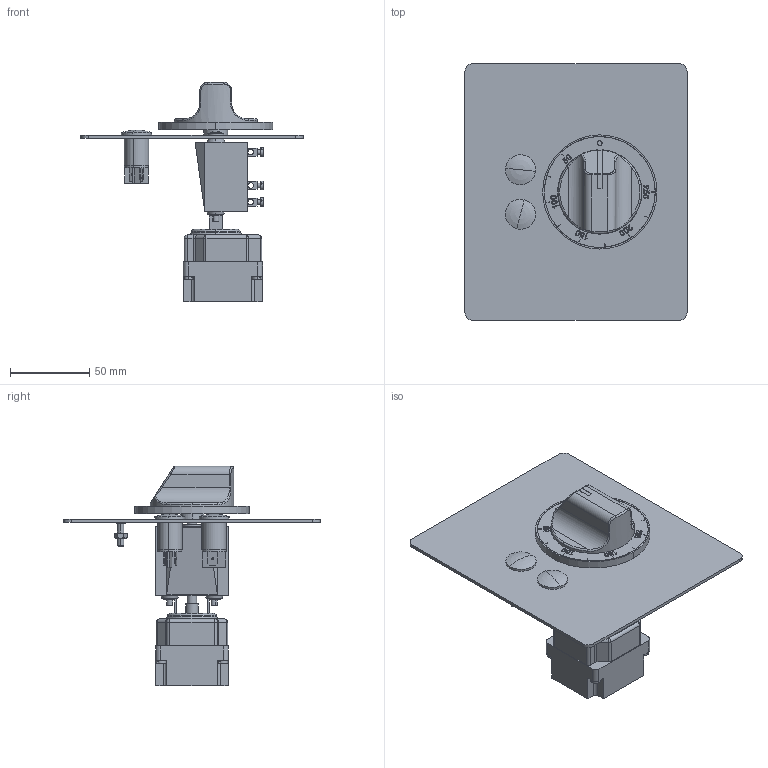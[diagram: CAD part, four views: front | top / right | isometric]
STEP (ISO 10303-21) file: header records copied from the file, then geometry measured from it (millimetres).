
FILE_DESCRIPTION (( 'STEP AP214' ), '1' );
FILE_NAME ('Bedienthermostat Bräter.STEP', '2019-02-08T08:41:01', ( '' ), ( '' ), 'SwSTEP 2.0', 'SolidWorks 2018', '' );
FILE_SCHEMA (( 'AUTOMOTIVE_DESIGN' ));
Length unit declared in the file: millimetre
Products named in the file (1): Bedienthermostat Bräter
Bounding box: 140 x 162 x 138.2 mm (x, y, z)
Volume: 243061.6 mm3; surface area: 89729.7 mm2
Topology: 1 solids, 11 shells, 805 faces, 1982 edges, 1278 vertices
Faces by surface type: plane 427, cylinder 203, bspline 104, cone 33, torus 26, sphere 12
Entity records: 33821 total; most frequent: CARTESIAN_POINT 6231, ORIENTED_EDGE 3940, DIRECTION 3714, EDGE_CURVE 1970, AXIS2_PLACEMENT_3D 1283, VERTEX_POINT 1278, LINE 1148, VECTOR 1148
